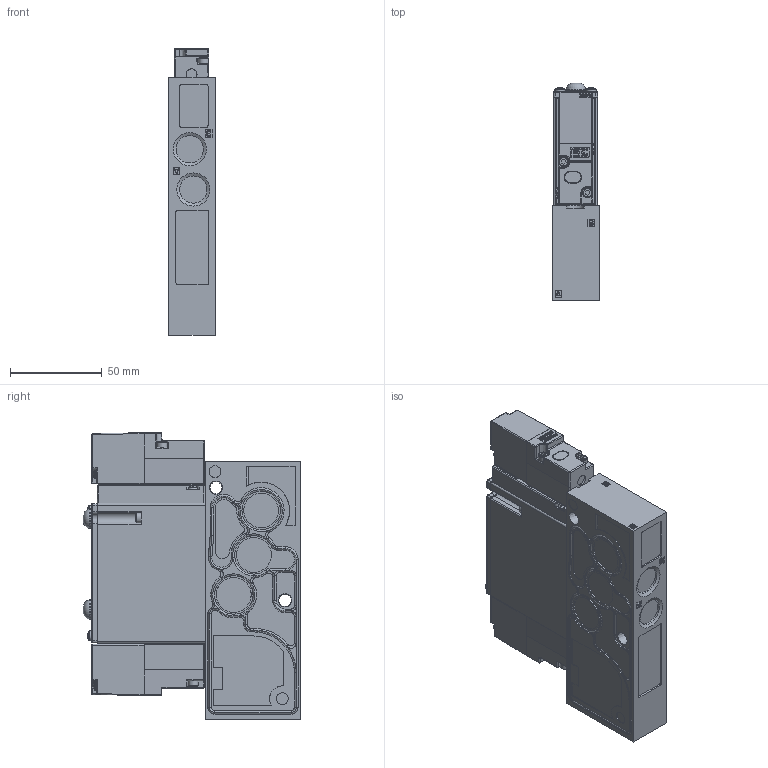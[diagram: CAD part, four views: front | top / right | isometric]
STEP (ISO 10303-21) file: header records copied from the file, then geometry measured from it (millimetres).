
FILE_DESCRIPTION (( 'STEP AP214' ), '1' );
FILE_NAME ('92A-BAA-C2K-DM-DXXP-1DM.STEP', '2019-07-05T15:29:26', ( 'user' ), ( '' ), 'SwSTEP 2.0', 'SolidWorks 2014', '' );
FILE_SCHEMA (( 'AUTOMOTIVE_DESIGN' ));
Length unit declared in the file: millimetre
Products named in the file (6): 92-PILOT-DM3; 92-BODY-BAA; 92-OVERRIDE-1; 92-OPERATOR-DXXP-YDM; 92-BASE-C2J; 92A-BAA-C2K-DM-DXXP-1DM
Assembly tree (8 placements, depth 2):
  92A-BAA-C2K-DM-DXXP-1DM
    92-BASE-C2J
    92-OPERATOR-DXXP-YDM  x2
    92-OVERRIDE-1  x2
    92-BODY-BAA
    92-PILOT-DM3  x2
Bounding box: 25.5 x 118.6 x 156.5 mm (x, y, z)
Volume: 358520.6 mm3; surface area: 88256.8 mm2
Topology: 35 solids, 35 shells, 3011 faces, 7715 edges, 4971 vertices
Faces by surface type: plane 1606, cylinder 884, cone 275, torus 103, bspline 92, sphere 51
Full cylindrical faces by diameter (mm): 0.01 x4, 0.72 x2, 0.85 x2, 0.95 x4, 1 x2, 2 x4, 2.2 x2, 2.4 x6, 2.5 x2, 2.6 x4, 2.7 x2, 2.79 x4, 3 x10, 3.15 x4, 3.25 x4, 3.3 x4, 3.35 x4, 4.775 x4, 5 x2, 5.1 x2, 5.5 x10, 5.6 x2, 6.22 x2, 6.8 x4, 6.92 x2, 7 x2, 9.5 x3, 10.13 x2, 10.5 x2, 11.008 x2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
Entity records: 96831 total; most frequent: CARTESIAN_POINT 16332, DIRECTION 11494, ORIENTED_EDGE 11288, EDGE_CURVE 5644, AXIS2_PLACEMENT_3D 4040, VERTEX_POINT 3741, VECTOR 3414, LINE 3414
